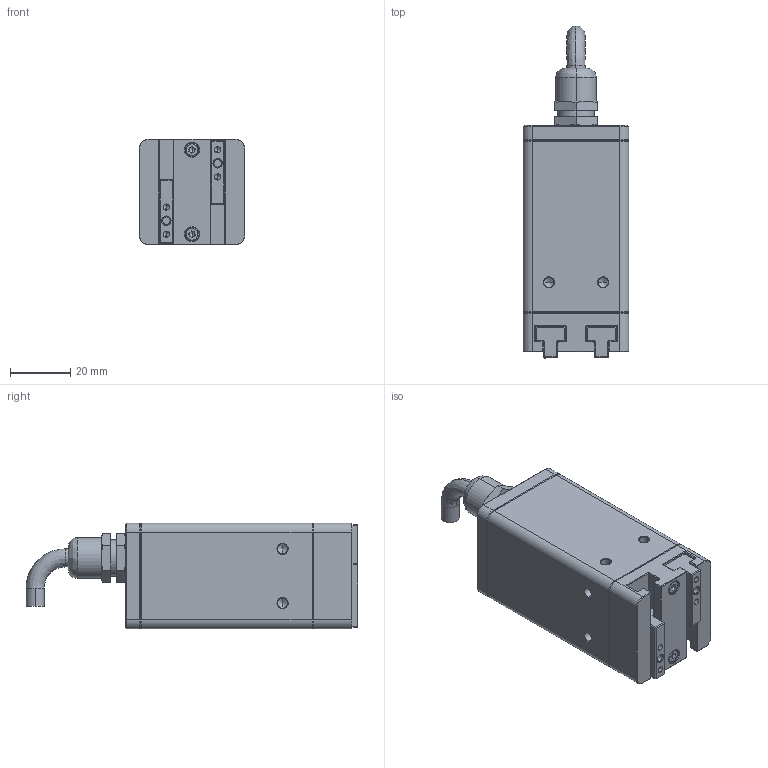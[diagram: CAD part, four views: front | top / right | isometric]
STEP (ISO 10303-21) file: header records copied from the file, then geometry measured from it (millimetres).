
FILE_DESCRIPTION (( 'STEP AP214' ), '1' );
FILE_NAME ('EPG26-006-1L#-C0024-P40-A##.STEP', '2021-12-24T03:25:56', ( 'User' ), ( 'China' ), 'SwSTEP 2.0', 'SolidWorks 2016', '' );
FILE_SCHEMA (( 'AUTOMOTIVE_DESIGN' ));
Length unit declared in the file: millimetre
Products named in the file (2): EPG26-006-1L#-C0024-P40-A##
Bounding box: 35 x 110 x 35 mm (x, y, z)
Volume: 88854.4 mm3; surface area: 25526.2 mm2
Topology: 13 solids, 13 shells, 911 faces, 2170 edges, 1309 vertices
Faces by surface type: plane 446, cone 173, cylinder 150, bspline 142
Entity records: 31829 total; most frequent: CARTESIAN_POINT 7010, ORIENTED_EDGE 4240, DIRECTION 3862, EDGE_CURVE 2120, LINE 1338, VECTOR 1338, VERTEX_POINT 1309, AXIS2_PLACEMENT_3D 1262
